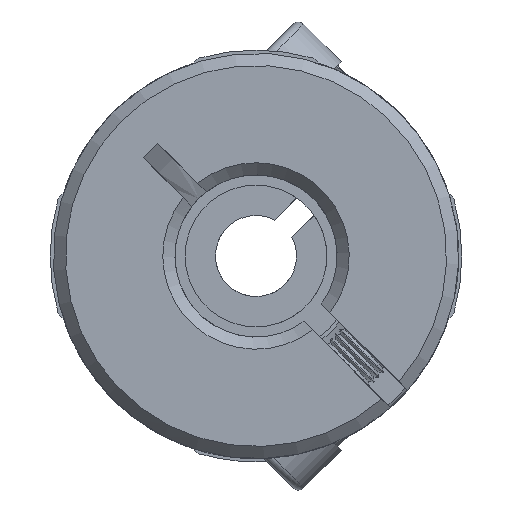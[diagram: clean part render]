
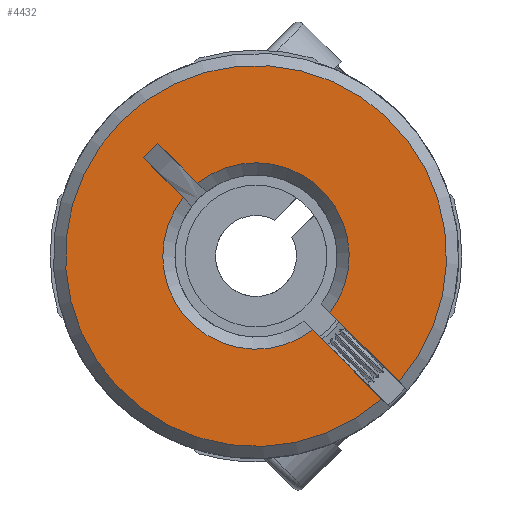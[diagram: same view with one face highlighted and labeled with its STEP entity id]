
A CAD part, front view. The second image highlights one B-rep face of the part: STEP entity #4432.
In plain terms, the highlighted planar face has unit normal (0, -1, 0).
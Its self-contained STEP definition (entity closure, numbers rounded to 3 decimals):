
#190 = LINE ( 'NONE', #3245, #10625 ) ;
#203 = AXIS2_PLACEMENT_3D ( 'NONE', #5560, #6467, #7483 ) ;
#249 = VERTEX_POINT ( 'NONE', #426 ) ;
#271 = VECTOR ( 'NONE', #4624, 1000. ) ;
#280 = DIRECTION ( 'NONE',  ( 0., -1., 0. ) ) ;
#347 = DIRECTION ( 'NONE',  ( 0.707, 0., -0.707 ) ) ;
#426 = CARTESIAN_POINT ( 'NONE',  ( -5.549, -12.6, 4.842 ) ) ;
#567 = AXIS2_PLACEMENT_3D ( 'NONE', #7639, #280, #3274 ) ;
#634 = EDGE_CURVE ( 'NONE', #5724, #4086, #930, .T. ) ;
#742 = DIRECTION ( 'NONE',  ( 0.707, 0., -0.707 ) ) ;
#861 = CARTESIAN_POINT ( 'NONE',  ( -4.842, -12.6, 5.549 ) ) ;
#930 = LINE ( 'NONE', #12234, #11398 ) ;
#1532 = LINE ( 'NONE', #10869, #271 ) ;
#1565 = AXIS2_PLACEMENT_3D ( 'NONE', #8762, #10830, #742 ) ;
#1768 = ORIENTED_EDGE ( 'NONE', *, *, #9957, .T. ) ;
#1813 = CIRCLE ( 'NONE', #9253, 4.6 ) ;
#1848 = CARTESIAN_POINT ( 'NONE',  ( 5.657, -12.6, -4.95 ) ) ;
#1979 = EDGE_CURVE ( 'NONE', #249, #11427, #1532, .T. ) ;
#2064 = VERTEX_POINT ( 'NONE', #861 ) ;
#2282 = ORIENTED_EDGE ( 'NONE', *, *, #10115, .T. ) ;
#3099 = DIRECTION ( 'NONE',  ( -0.707, 0., 0.707 ) ) ;
#3245 = CARTESIAN_POINT ( 'NONE',  ( 2.372, -12.6, -3.221 ) ) ;
#3274 = DIRECTION ( 'NONE',  ( 0.707, 0., -0.707 ) ) ;
#3280 = CARTESIAN_POINT ( 'NONE',  ( 2.801, -12.6, -3.649 ) ) ;
#3283 = DIRECTION ( 'NONE',  ( 0.707, 0., -0.707 ) ) ;
#3742 = CARTESIAN_POINT ( 'NONE',  ( -2.88, -12.6, 3.587 ) ) ;
#4086 = VERTEX_POINT ( 'NONE', #11201 ) ;
#4296 = CARTESIAN_POINT ( 'NONE',  ( 0., -12.6, 0. ) ) ;
#4432 = ADVANCED_FACE ( 'NONE', ( #12845 ), #5741, .F. ) ;
#4486 = ORIENTED_EDGE ( 'NONE', *, *, #5545, .F. ) ;
#4624 = DIRECTION ( 'NONE',  ( 0.707, 0., -0.707 ) ) ;
#5006 = LINE ( 'NONE', #10227, #10264 ) ;
#5210 = CARTESIAN_POINT ( 'NONE',  ( -3.587, -12.6, 2.88 ) ) ;
#5321 = EDGE_CURVE ( 'NONE', #5724, #6173, #8515, .T. ) ;
#5545 = EDGE_CURVE ( 'NONE', #2064, #249, #5006, .T. ) ;
#5560 = CARTESIAN_POINT ( 'NONE',  ( 0., -12.6, 0. ) ) ;
#5668 = ORIENTED_EDGE ( 'NONE', *, *, #1979, .F. ) ;
#5724 = VERTEX_POINT ( 'NONE', #10446 ) ;
#5741 = PLANE ( 'NONE',  #1565 ) ;
#6173 = VERTEX_POINT ( 'NONE', #6791 ) ;
#6467 = DIRECTION ( 'NONE',  ( 0., 1., 0. ) ) ;
#6546 = CIRCLE ( 'NONE', #203, 4.6 ) ;
#6591 = ORIENTED_EDGE ( 'NONE', *, *, #10058, .T. ) ;
#6791 = CARTESIAN_POINT ( 'NONE',  ( 6.209, -12.6, -7.058 ) ) ;
#7349 = DIRECTION ( 'NONE',  ( 0., 1., 0. ) ) ;
#7483 = DIRECTION ( 'NONE',  ( 0.707, 0., -0.707 ) ) ;
#7509 = ORIENTED_EDGE ( 'NONE', *, *, #5321, .T. ) ;
#7639 = CARTESIAN_POINT ( 'NONE',  ( 0., -12.6, 0. ) ) ;
#7811 = EDGE_LOOP ( 'NONE', ( #1768, #6591, #12178, #7509, #7864, #2282, #5668, #4486 ) ) ;
#7864 = ORIENTED_EDGE ( 'NONE', *, *, #12386, .F. ) ;
#8124 = DIRECTION ( 'NONE',  ( -0.707, 0., -0.707 ) ) ;
#8515 = CIRCLE ( 'NONE', #567, 9.4 ) ;
#8762 = CARTESIAN_POINT ( 'NONE',  ( 342.528, -12.6, 364.579 ) ) ;
#8902 = DIRECTION ( 'NONE',  ( 0.707, 0., -0.707 ) ) ;
#9246 = LINE ( 'NONE', #1848, #10214 ) ;
#9253 = AXIS2_PLACEMENT_3D ( 'NONE', #4296, #7349, #347 ) ;
#9957 = EDGE_CURVE ( 'NONE', #2064, #11018, #9246, .T. ) ;
#10058 = EDGE_CURVE ( 'NONE', #11018, #4086, #1813, .T. ) ;
#10115 = EDGE_CURVE ( 'NONE', #10534, #11427, #6546, .T. ) ;
#10214 = VECTOR ( 'NONE', #8902, 1000. ) ;
#10227 = CARTESIAN_POINT ( 'NONE',  ( -4.842, -12.6, 5.549 ) ) ;
#10264 = VECTOR ( 'NONE', #8124, 1000. ) ;
#10446 = CARTESIAN_POINT ( 'NONE',  ( 7.058, -12.6, -6.209 ) ) ;
#10534 = VERTEX_POINT ( 'NONE', #3280 ) ;
#10625 = VECTOR ( 'NONE', #3283, 1000. ) ;
#10830 = DIRECTION ( 'NONE',  ( 0., 1., 0. ) ) ;
#10869 = CARTESIAN_POINT ( 'NONE',  ( 4.95, -12.6, -5.657 ) ) ;
#11018 = VERTEX_POINT ( 'NONE', #3742 ) ;
#11201 = CARTESIAN_POINT ( 'NONE',  ( 3.649, -12.6, -2.801 ) ) ;
#11398 = VECTOR ( 'NONE', #3099, 1000. ) ;
#11427 = VERTEX_POINT ( 'NONE', #5210 ) ;
#12178 = ORIENTED_EDGE ( 'NONE', *, *, #634, .F. ) ;
#12234 = CARTESIAN_POINT ( 'NONE',  ( 3.221, -12.6, -2.372 ) ) ;
#12386 = EDGE_CURVE ( 'NONE', #10534, #6173, #190, .T. ) ;
#12845 = FACE_OUTER_BOUND ( 'NONE', #7811, .T. ) ;
